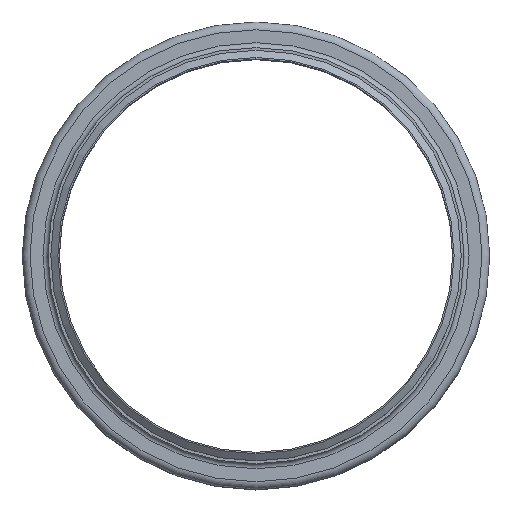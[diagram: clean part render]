
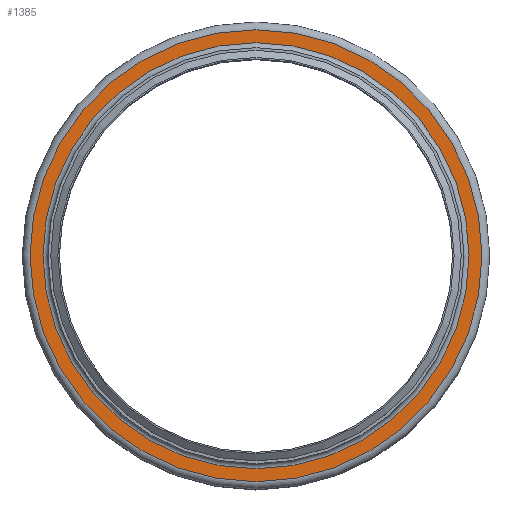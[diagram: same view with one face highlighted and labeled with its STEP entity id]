
A CAD part, top view. The second image highlights one B-rep face of the part: STEP entity #1385.
In plain terms, the highlighted planar face has unit normal (0, 0, 1).
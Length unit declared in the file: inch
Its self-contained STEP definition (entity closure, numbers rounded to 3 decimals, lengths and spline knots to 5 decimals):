
#155=FACE_BOUND('',#416,.T.);
#256=FACE_OUTER_BOUND('',#415,.T.);
#415=EDGE_LOOP('',(#1168));
#416=EDGE_LOOP('',(#1169));
#584=CIRCLE('',#1684,9.34125);
#585=CIRCLE('',#1686,9.90875);
#703=VERTEX_POINT('',#2631);
#704=VERTEX_POINT('',#2635);
#862=EDGE_CURVE('',#703,#703,#584,.T.);
#863=EDGE_CURVE('',#704,#704,#585,.T.);
#1168=ORIENTED_EDGE('',*,*,#863,.F.);
#1169=ORIENTED_EDGE('',*,*,#862,.T.);
#1284=PLANE('',#1685);
#1385=ADVANCED_FACE('',(#256,#155),#1284,.T.);
#1684=AXIS2_PLACEMENT_3D('',#2633,#2197,#2198);
#1685=AXIS2_PLACEMENT_3D('',#2634,#2199,#2200);
#1686=AXIS2_PLACEMENT_3D('',#2636,#2201,#2202);
#2197=DIRECTION('center_axis',(0.,0.,-1.));
#2198=DIRECTION('ref_axis',(1.,0.,0.));
#2199=DIRECTION('center_axis',(0.,0.,1.));
#2200=DIRECTION('ref_axis',(1.,0.,0.));
#2201=DIRECTION('center_axis',(0.,0.,-1.));
#2202=DIRECTION('ref_axis',(1.,0.,0.));
#2631=CARTESIAN_POINT('',(9.34125,0.,-0.22125));
#2633=CARTESIAN_POINT('Origin',(0.,0.,-0.22125));
#2634=CARTESIAN_POINT('Origin',(0.,9.90875,-0.22125));
#2635=CARTESIAN_POINT('',(9.90875,0.,-0.22125));
#2636=CARTESIAN_POINT('Origin',(0.,0.,-0.22125));
